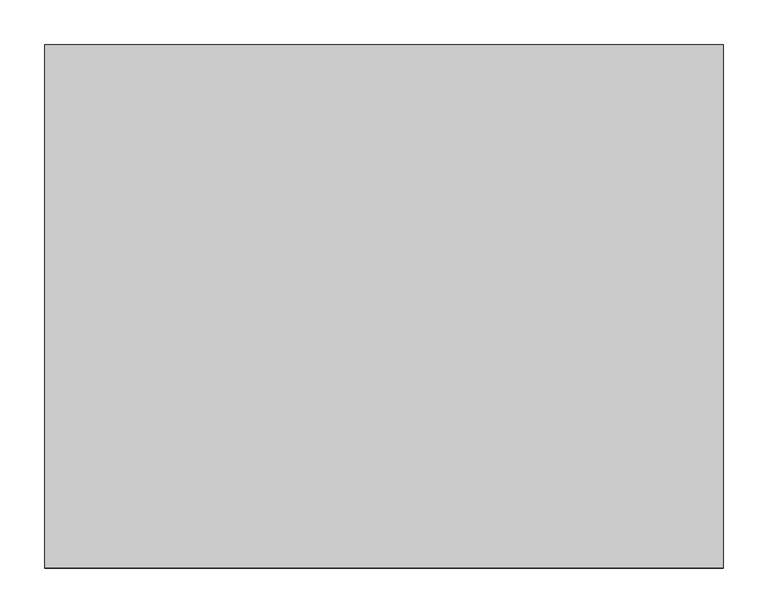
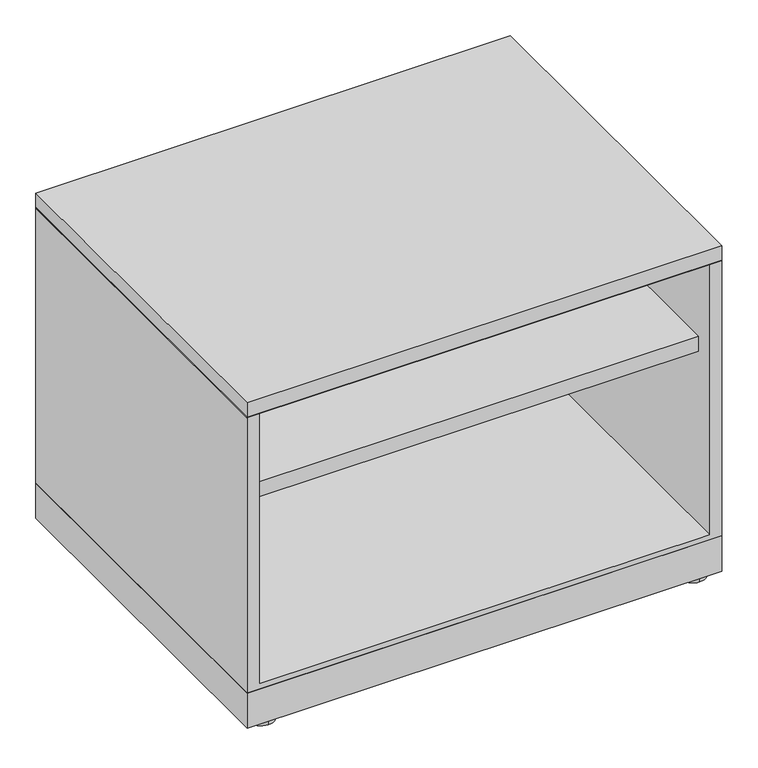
"""IFC4 building model written with IfcOpenShell, lengths in millimetres: furniture geometry, Steelcase - Universal Storage - Lateral File - 1.5 High - Flush Steel : Open/Open - 23 1/8D x 30W."""

from ifc_helpers import new_model, si_unit, point, frame, frame_2d, origin, origin_with_axes, place, context, project, spatial, polyline, circle_curve, trimmed, segment, composite_curve, outline, extrude, faceted_brep, source, transform, mapped, element, save


def furniture_76fcc7b2(model_context):
    return source(origin(), model_context, "Body", "SolidModel", [
        extrude(outline(polyline([(762.0, 587.502), (762.0, 0.0), (0.0, 0.0), (0.0, 587.502), (762.0, 587.502)])), frame((0.0, 0.0, 6.3500002), z_axis=(0.0, 0.0, 1.0), x_axis=(1.0, 0.0, 0.0)), (0.0, 0.0, 1.0), 59.6899998),
        extrude(outline(composite_curve([segment(trimmed(circle_curve(frame_2d((727.3290058, 565.1653666)), 20.32), [point((727.3290058, 544.8453666))], [point((727.3290058, 585.4853666))], False, "CARTESIAN"), True, "CONTINUOUS"), segment(trimmed(circle_curve(frame_2d((727.3290058, 565.1653666)), 20.32), [point((727.3290058, 585.4853666))], [point((727.3290058, 544.8453666))], False, "CARTESIAN"), True, "CONTINUOUS")], self_intersect=False)), origin_with_axes(), (0.0, 0.0, 1.0), 6.3500002),
        extrude(outline(composite_curve([segment(trimmed(circle_curve(frame_2d((727.3290058, 20.7491455)), 20.32), [point((727.3290058, 0.4291455))], [point((727.3290058, 41.0691455))], False, "CARTESIAN"), True, "CONTINUOUS"), segment(trimmed(circle_curve(frame_2d((727.3290058, 20.7491455)), 20.32), [point((727.3290058, 41.0691455))], [point((727.3290058, 0.4291455))], False, "CARTESIAN"), True, "CONTINUOUS")], self_intersect=False)), origin_with_axes(), (0.0, 0.0, 1.0), 6.3500002),
        extrude(outline(composite_curve([segment(trimmed(circle_curve(frame_2d((34.29, 565.1653666)), 20.32), [point((34.29, 585.4853666))], [point((34.29, 544.8453666))], False, "CARTESIAN"), True, "CONTINUOUS"), segment(trimmed(circle_curve(frame_2d((34.29, 565.1653666)), 20.32), [point((34.29, 544.8453666))], [point((34.29, 585.4853666))], False, "CARTESIAN"), True, "CONTINUOUS")], self_intersect=False)), origin_with_axes(), (0.0, 0.0, 1.0), 6.3500002),
        extrude(outline(composite_curve([segment(trimmed(circle_curve(frame_2d((34.29, 20.7491455)), 20.32), [point((34.29, 41.0691455))], [point((34.29, 0.4291455))], False, "CARTESIAN"), True, "CONTINUOUS"), segment(trimmed(circle_curve(frame_2d((34.29, 20.7491455)), 20.32), [point((34.29, 0.4291455))], [point((34.29, 41.0691455))], False, "CARTESIAN"), True, "CONTINUOUS")], self_intersect=False)), origin_with_axes(), (0.0, 0.0, 1.0), 6.3500002),
        extrude(outline(polyline([(568.0964128, 396.7988176), (568.0964128, 410.7687861), (571.271412, 410.7687861), (571.271412, 371.5257963), (26.822418, 371.5257963), (26.822418, 396.7988176), (568.0964128, 396.7988176)])), frame((22.0472, 0.0, 0.0), z_axis=(1.0, 0.0, 0.0), x_axis=(0.0, 1.0, 0.0)), (0.0, 0.0, 1.0), 717.9056),
        extrude(outline(polyline([(1.45e-05, 534.0350121), (587.502, 534.0350121), (586.7399879, 533.273), (0.7620266, 533.273), (1.45e-05, 534.0350121)])), frame((0.0, 0.0, 0.0), z_axis=(1.0, 0.0, 0.0), x_axis=(0.0, 1.0, 0.0)), (0.0, 0.0, 1.0), 762.0),
        extrude(outline(polyline([(762.0, 587.502), (762.0, 0.0), (0.0, 0.0), (0.0, 587.502), (762.0, 587.502)])), frame((0.0, 0.0, 534.0350121), z_axis=(0.0, 0.0, 1.0), x_axis=(1.0, 0.0, 0.0)), (0.0, 0.0, 1.0), 24.6379729),
        faceted_brep([(762.0, 0.0, 66.04), (762.0, 587.502, 66.04), (762.0, 587.502, 533.273), (762.0, 0.0, 533.273), (0.0, 0.0, 533.273), (0.0, 587.502, 533.273), (0.0, 587.502, 66.04), (0.0, 0.0, 66.04), (742.95, 0.0, 533.273), (742.95, 0.0, 75.1586), (19.05, 0.0, 75.1586), (19.05, 0.0, 533.273), (19.05, 584.3269999, 533.273), (742.95, 584.3269999, 533.273), (19.05, 584.3269999, 75.1586), (742.95, 584.3269999, 75.1586)], [[[0, 1, 2, 3]], [[4, 5, 6, 7]], [[0, 3, 8, 9, 10, 11, 4, 7]], [[2, 1, 6, 5]], [[3, 2, 5, 4, 11, 12, 13, 8]], [[12, 14, 15, 13]], [[14, 12, 11, 10]], [[13, 15, 9, 8]], [[1, 0, 7, 6]], [[10, 9, 15, 14]]]),
    ])


if __name__ == "__main__":
    model = new_model("IFC4")
    model_context = context("Model", 3, world=origin())
    ifc_project = project(units=[si_unit("LENGTHUNIT", "METRE", prefix="MILLI")], contexts=[model_context])
    site = spatial("IfcSite", under=ifc_project)
    building = spatial("IfcBuilding", under=site)
    placement = place(None, origin())
    furniture_shape = furniture_76fcc7b2(model_context)
    element("IfcFurniture", 1, ObjectType="Steelcase - Universal Storage - Lateral File - 1.5 High - Flush Steel : Open/Open - 23 1/8D x 30W", at=placement, inside=building, context=model_context, shape_type="MappedRepresentation", body=[
        mapped(furniture_shape, transform((0.0, 0.0, 0.0), x_axis=(1.0, 0.0, 0.0), y_axis=(0.0, 1.0, 0.0), z_axis=(0.0, 0.0, 1.0))),
    ])
    save(model, "model.ifc")
